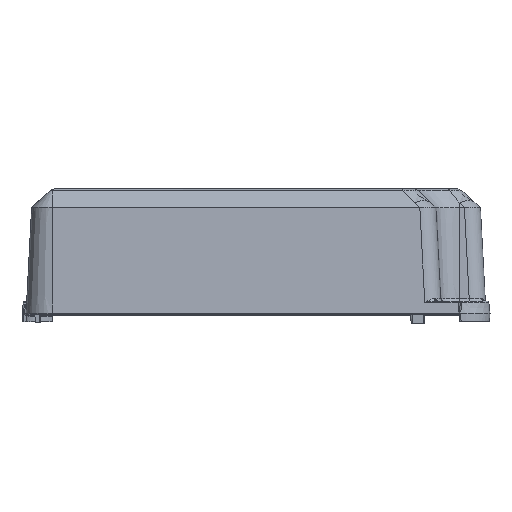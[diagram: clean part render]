
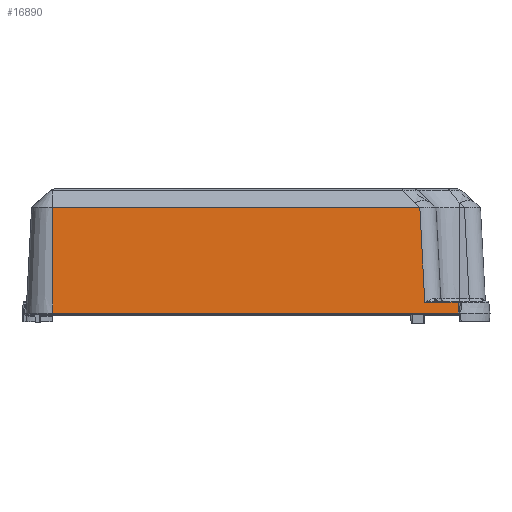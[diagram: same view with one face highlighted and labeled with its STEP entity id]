
A CAD part, top view. The second image highlights one B-rep face of the part: STEP entity #16890.
In plain terms, the highlighted planar face has unit normal (0, 0.052, 0.999).
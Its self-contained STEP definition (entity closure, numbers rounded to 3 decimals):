
#727 = VERTEX_POINT ( 'NONE', #33202 ) ;
#853 = CARTESIAN_POINT ( 'NONE',  ( 75.499, 0.525, 88.472 ) ) ;
#1181 = VECTOR ( 'NONE', #7133, 1000. ) ;
#1533 = DIRECTION ( 'NONE',  ( 0.104, 0.993, -0.052 ) ) ;
#1826 = LINE ( 'NONE', #7578, #23227 ) ;
#2175 = EDGE_CURVE ( 'NONE', #35263, #10842, #11146, .T. ) ;
#2459 = ORIENTED_EDGE ( 'NONE', *, *, #34685, .T. ) ;
#3158 = CARTESIAN_POINT ( 'NONE',  ( 61.215, 40.01, 86.403 ) ) ;
#3227 = VECTOR ( 'NONE', #13323, 1000. ) ;
#3490 = VERTEX_POINT ( 'NONE', #30172 ) ;
#6944 = EDGE_CURVE ( 'NONE', #30879, #13374, #29123, .T. ) ;
#7133 = DIRECTION ( 'NONE',  ( 0., -0.999, 0.052 ) ) ;
#7183 = CARTESIAN_POINT ( 'NONE',  ( -76., 0., 88.5 ) ) ;
#7409 = ORIENTED_EDGE ( 'NONE', *, *, #6944, .T. ) ;
#7578 = CARTESIAN_POINT ( 'NONE',  ( 63.377, -0.66, 88.535 ) ) ;
#7747 = EDGE_CURVE ( 'NONE', #10842, #30879, #15899, .T. ) ;
#8202 = PLANE ( 'NONE',  #19309 ) ;
#8636 = DIRECTION ( 'NONE',  ( 1., 0., 0. ) ) ;
#9707 = ORIENTED_EDGE ( 'NONE', *, *, #7747, .T. ) ;
#10294 = ORIENTED_EDGE ( 'NONE', *, *, #27391, .T. ) ;
#10842 = VERTEX_POINT ( 'NONE', #3158 ) ;
#10973 = DIRECTION ( 'NONE',  ( 0., 0.052, 0.999 ) ) ;
#11146 =( BOUNDED_CURVE ( )  B_SPLINE_CURVE ( 3, ( #18282, #18000, #18083, #18315 ),
 .UNSPECIFIED., .F., .F. ) 
 B_SPLINE_CURVE_WITH_KNOTS ( ( 4, 4 ),
 ( 5.743, 5.745 ),
 .UNSPECIFIED. ) 
 CURVE ( )  GEOMETRIC_REPRESENTATION_ITEM ( )  RATIONAL_B_SPLINE_CURVE ( ( 1., 1., 1., 1. ) ) 
 REPRESENTATION_ITEM ( '' )  );
#12658 = VECTOR ( 'NONE', #1533, 1000. ) ;
#13055 = CARTESIAN_POINT ( 'NONE',  ( 75.498, 0.526, 88.472 ) ) ;
#13323 = DIRECTION ( 'NONE',  ( -1., 0., 0. ) ) ;
#13374 = VERTEX_POINT ( 'NONE', #27450 ) ;
#14696 = CARTESIAN_POINT ( 'NONE',  ( 75.498, 0.526, 88.472 ) ) ;
#14725 = CARTESIAN_POINT ( 'NONE',  ( -76., 40.01, 86.403 ) ) ;
#15229 = ORIENTED_EDGE ( 'NONE', *, *, #34738, .T. ) ;
#15361 = CARTESIAN_POINT ( 'NONE',  ( 61.246, 40.01, 86.403 ) ) ;
#15899 = LINE ( 'NONE', #25505, #23403 ) ;
#16261 = CARTESIAN_POINT ( 'NONE',  ( 63.08, 4.526, 88.263 ) ) ;
#16890 = ADVANCED_FACE ( 'NONE', ( #18378 ), #8202, .T. ) ;
#17534 = CARTESIAN_POINT ( 'NONE',  ( 75.499, 0.525, 88.472 ) ) ;
#18000 = CARTESIAN_POINT ( 'NONE',  ( 61.236, 40.01, 86.403 ) ) ;
#18006 = LINE ( 'NONE', #16261, #3227 ) ;
#18083 = CARTESIAN_POINT ( 'NONE',  ( 61.225, 40.01, 86.403 ) ) ;
#18233 = CARTESIAN_POINT ( 'NONE',  ( 75.975, 5.052, 88.235 ) ) ;
#18282 = CARTESIAN_POINT ( 'NONE',  ( 61.246, 40.01, 86.403 ) ) ;
#18315 = CARTESIAN_POINT ( 'NONE',  ( 61.215, 40.01, 86.403 ) ) ;
#18378 = FACE_OUTER_BOUND ( 'NONE', #33661, .T. ) ;
#19054 = ORIENTED_EDGE ( 'NONE', *, *, #32773, .T. ) ;
#19259 = LINE ( 'NONE', #18233, #12658 ) ;
#19309 = AXIS2_PLACEMENT_3D ( 'NONE', #35940, #10973, #30563 ) ;
#21792 = EDGE_CURVE ( 'NONE', #35602, #727, #19259, .T. ) ;
#22563 = CARTESIAN_POINT ( 'NONE',  ( 76., 0.526, 88.472 ) ) ;
#23227 = VECTOR ( 'NONE', #32590, 1000. ) ;
#23403 = VECTOR ( 'NONE', #25543, 1000. ) ;
#25194 = CARTESIAN_POINT ( 'NONE',  ( 75.499, 0.525, 88.472 ) ) ;
#25505 = CARTESIAN_POINT ( 'NONE',  ( -76., 40.01, 86.403 ) ) ;
#25543 = DIRECTION ( 'NONE',  ( -1., 0., 0. ) ) ;
#25783 = LINE ( 'NONE', #22563, #34030 ) ;
#26775 = VERTEX_POINT ( 'NONE', #13055 ) ;
#27391 = EDGE_CURVE ( 'NONE', #3490, #35263, #1826, .T. ) ;
#27450 = CARTESIAN_POINT ( 'NONE',  ( -76., 0.526, 88.472 ) ) ;
#29123 = LINE ( 'NONE', #7183, #1181 ) ;
#30172 = CARTESIAN_POINT ( 'NONE',  ( 63.105, 4.526, 88.263 ) ) ;
#30563 = DIRECTION ( 'NONE',  ( 0., -0.999, 0.052 ) ) ;
#30879 = VERTEX_POINT ( 'NONE', #14725 ) ;
#31490 = CARTESIAN_POINT ( 'NONE',  ( 75.499, 0.526, 88.472 ) ) ;
#32590 = DIRECTION ( 'NONE',  ( -0.052, 0.997, -0.052 ) ) ;
#32773 = EDGE_CURVE ( 'NONE', #727, #3490, #18006, .T. ) ;
#32908 = ORIENTED_EDGE ( 'NONE', *, *, #2175, .T. ) ;
#33202 = CARTESIAN_POINT ( 'NONE',  ( 75.92, 4.526, 88.263 ) ) ;
#33661 = EDGE_LOOP ( 'NONE', ( #35819, #19054, #10294, #32908, #9707, #7409, #2459, #15229 ) ) ;
#34030 = VECTOR ( 'NONE', #8636, 1000. ) ;
#34472 = B_SPLINE_CURVE_WITH_KNOTS ( 'NONE', 3,
 ( #14696, #31490, #17534, #853 ),
 .UNSPECIFIED., .F., .F.,
 ( 4, 4 ),
 ( 0., 0. ),
 .UNSPECIFIED. ) ;
#34685 = EDGE_CURVE ( 'NONE', #13374, #26775, #25783, .T. ) ;
#34738 = EDGE_CURVE ( 'NONE', #26775, #35602, #34472, .T. ) ;
#35263 = VERTEX_POINT ( 'NONE', #15361 ) ;
#35602 = VERTEX_POINT ( 'NONE', #25194 ) ;
#35819 = ORIENTED_EDGE ( 'NONE', *, *, #21792, .T. ) ;
#35940 = CARTESIAN_POINT ( 'NONE',  ( 76., 0., 88.5 ) ) ;
